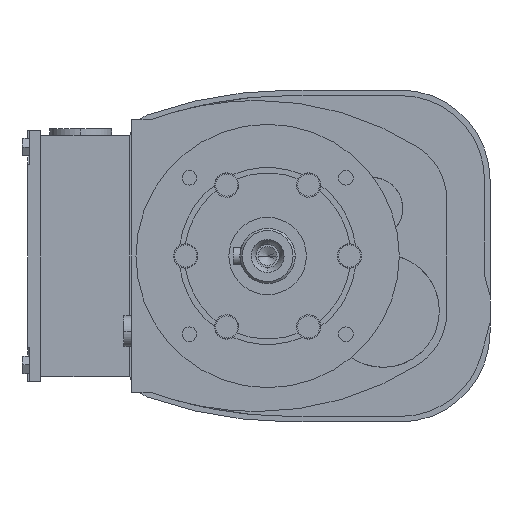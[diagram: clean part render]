
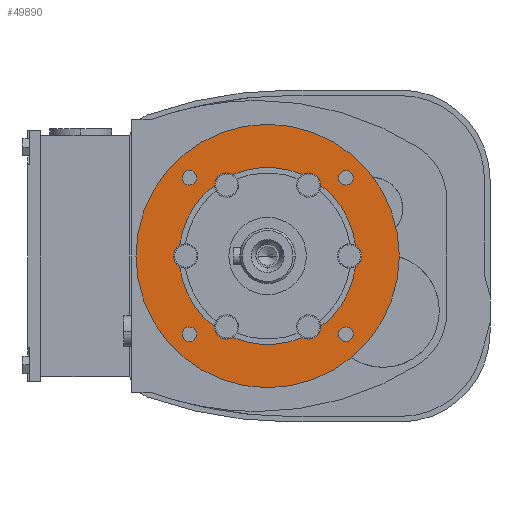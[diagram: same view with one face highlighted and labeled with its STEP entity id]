
A CAD part, left-side view. The second image highlights one B-rep face of the part: STEP entity #49890.
In plain terms, the highlighted planar face has unit normal (-1, 0, 0).
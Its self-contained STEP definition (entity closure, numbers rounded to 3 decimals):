
#44760=CARTESIAN_POINT('',(-70.,44.555,-42.145));
#44770=VERTEX_POINT('',#44760);
#44800=CARTESIAN_POINT('',(-70.,47.855,-42.145));
#44810=DIRECTION('',(-1.,0.,0.));
#44820=DIRECTION('',(0.,-1.,0.));
#44830=AXIS2_PLACEMENT_3D('',#44800,#44810,#44820);
#44840=CIRCLE('',#44830,3.3);
#44850=CARTESIAN_POINT('',(-70.,51.155,-42.145));
#44860=VERTEX_POINT('',#44850);
#44870=EDGE_CURVE('',#44860,#44770,#44840,.T.);
#45180=CARTESIAN_POINT('',(-70.,72.,-77.5));
#45190=VERTEX_POINT('',#45180);
#45350=CARTESIAN_POINT('',(-70.,-47.,-77.5));
#45360=VERTEX_POINT('',#45350);
#45390=CARTESIAN_POINT('',(-70.,12.5,-77.5));
#45400=DIRECTION('',(-1.,0.,0.));
#45410=DIRECTION('',(0.,1.,0.));
#45420=AXIS2_PLACEMENT_3D('',#45390,#45400,#45410);
#45430=CIRCLE('',#45420,59.5);
#45440=EDGE_CURVE('',#45360,#45190,#45430,.T.);
#46020=CARTESIAN_POINT('',(-70.,-19.555,-112.855));
#46030=VERTEX_POINT('',#46020);
#46060=CARTESIAN_POINT('',(-70.,-22.855,-112.855));
#46070=DIRECTION('',(-1.,0.,0.));
#46080=DIRECTION('',(0.,1.,0.));
#46090=AXIS2_PLACEMENT_3D('',#46060,#46070,#46080);
#46100=CIRCLE('',#46090,3.3);
#46110=CARTESIAN_POINT('',(-70.,-26.155,-112.855));
#46120=VERTEX_POINT('',#46110);
#46130=EDGE_CURVE('',#46120,#46030,#46100,.T.);
#47430=CARTESIAN_POINT('',(-70.,12.5,-77.5));
#47440=DIRECTION('',(1.,0.,0.));
#47450=DIRECTION('',(0.,-1.,0.));
#47460=AXIS2_PLACEMENT_3D('',#47430,#47440,#47450);
#47470=CIRCLE('',#47460,40.);
#47480=CARTESIAN_POINT('',(-70.,-27.213,-82.284));
#47490=VERTEX_POINT('',#47480);
#47500=CARTESIAN_POINT('',(-70.,-11.5,-109.5));
#47510=VERTEX_POINT('',#47500);
#47520=EDGE_CURVE('',#47490,#47510,#47470,.T.);
#48160=CARTESIAN_POINT('',(-70.,-22.855,-45.445));
#48170=VERTEX_POINT('',#48160);
#48200=CARTESIAN_POINT('',(-70.,-22.855,-42.145));
#48210=DIRECTION('',(-1.,0.,0.));
#48220=DIRECTION('',(0.,0.,-1.));
#48230=AXIS2_PLACEMENT_3D('',#48200,#48210,#48220);
#48240=CIRCLE('',#48230,3.3);
#48250=CARTESIAN_POINT('',(-70.,-22.855,-38.845));
#48260=VERTEX_POINT('',#48250);
#48270=EDGE_CURVE('',#48260,#48170,#48240,.T.);
#48500=CARTESIAN_POINT('',(-70.,-0.763,-23.24));
#48510=DIRECTION('',(-1.,0.,0.));
#48520=DIRECTION('',(0.,-1.,0.));
#48530=AXIS2_PLACEMENT_3D('',#48500,#48510,#48520);
#48540=PLANE('',#48530);
#48550=EDGE_CURVE('',#44770,#44860,#44840,.T.);
#48560=ORIENTED_EDGE('',*,*,#48550,.F.);
#48570=ORIENTED_EDGE('',*,*,#44870,.F.);
#48580=EDGE_LOOP('',(#48570,#48560));
#48590=FACE_BOUND('',#48580,.T.);
#48600=CARTESIAN_POINT('',(-70.,-6.,-45.457));
#48610=DIRECTION('',(-1.,0.,0.));
#48620=DIRECTION('',(0.,0.5,-0.866));
#48630=AXIS2_PLACEMENT_3D('',#48600,#48610,#48620);
#48640=CIRCLE('',#48630,5.5);
#48650=CARTESIAN_POINT('',(-70.,-11.5,-45.5));
#48660=VERTEX_POINT('',#48650);
#48670=CARTESIAN_POINT('',(-70.,-8.75,-40.694));
#48680=VERTEX_POINT('',#48670);
#48690=EDGE_CURVE('',#48660,#48680,#48640,.T.);
#48700=ORIENTED_EDGE('',*,*,#48690,.F.);
#48710=CARTESIAN_POINT('',(-70.,-3.213,-40.715));
#48720=VERTEX_POINT('',#48710);
#48730=EDGE_CURVE('',#48680,#48720,#48640,.T.);
#48740=ORIENTED_EDGE('',*,*,#48730,.F.);
#48750=CARTESIAN_POINT('',(-70.,28.213,-40.715));
#48760=VERTEX_POINT('',#48750);
#48770=EDGE_CURVE('',#48760,#48720,#47470,.T.);
#48780=ORIENTED_EDGE('',*,*,#48770,.T.);
#48790=CARTESIAN_POINT('',(-70.,31.,-45.457));
#48800=DIRECTION('',(-1.,0.,0.));
#48810=DIRECTION('',(0.,-0.5,-0.866));
#48820=AXIS2_PLACEMENT_3D('',#48790,#48800,#48810);
#48830=CIRCLE('',#48820,5.5);
#48840=CARTESIAN_POINT('',(-70.,33.75,-40.694));
#48850=VERTEX_POINT('',#48840);
#48860=EDGE_CURVE('',#48760,#48850,#48830,.T.);
#48870=ORIENTED_EDGE('',*,*,#48860,.F.);
#48880=CARTESIAN_POINT('',(-70.,36.5,-45.5));
#48890=VERTEX_POINT('',#48880);
#48900=EDGE_CURVE('',#48850,#48890,#48830,.T.);
#48910=ORIENTED_EDGE('',*,*,#48900,.F.);
#48920=CARTESIAN_POINT('',(-70.,52.213,-72.716));
#48930=VERTEX_POINT('',#48920);
#48940=EDGE_CURVE('',#48930,#48890,#47470,.T.);
#48950=ORIENTED_EDGE('',*,*,#48940,.T.);
#48960=CARTESIAN_POINT('',(-70.,49.5,-77.5));
#48970=DIRECTION('',(-1.,0.,0.));
#48980=DIRECTION('',(0.,-1.,0.));
#48990=AXIS2_PLACEMENT_3D('',#48960,#48970,#48980);
#49000=CIRCLE('',#48990,5.5);
#49010=CARTESIAN_POINT('',(-70.,55.,-77.5));
#49020=VERTEX_POINT('',#49010);
#49030=EDGE_CURVE('',#48930,#49020,#49000,.T.);
#49040=ORIENTED_EDGE('',*,*,#49030,.F.);
#49050=CARTESIAN_POINT('',(-70.,52.213,-82.284));
#49060=VERTEX_POINT('',#49050);
#49070=EDGE_CURVE('',#49020,#49060,#49000,.T.);
#49080=ORIENTED_EDGE('',*,*,#49070,.F.);
#49090=CARTESIAN_POINT('',(-70.,36.5,-109.5));
#49100=VERTEX_POINT('',#49090);
#49110=EDGE_CURVE('',#49100,#49060,#47470,.T.);
#49120=ORIENTED_EDGE('',*,*,#49110,.T.);
#49130=CARTESIAN_POINT('',(-70.,31.,-109.543));
#49140=DIRECTION('',(-1.,0.,0.));
#49150=DIRECTION('',(0.,-0.5,0.866));
#49160=AXIS2_PLACEMENT_3D('',#49130,#49140,#49150);
#49170=CIRCLE('',#49160,5.5);
#49180=CARTESIAN_POINT('',(-70.,33.75,-114.306));
#49190=VERTEX_POINT('',#49180);
#49200=EDGE_CURVE('',#49100,#49190,#49170,.T.);
#49210=ORIENTED_EDGE('',*,*,#49200,.F.);
#49220=CARTESIAN_POINT('',(-70.,28.213,-114.285));
#49230=VERTEX_POINT('',#49220);
#49240=EDGE_CURVE('',#49190,#49230,#49170,.T.);
#49250=ORIENTED_EDGE('',*,*,#49240,.F.);
#49260=CARTESIAN_POINT('',(-70.,-3.213,-114.285));
#49270=VERTEX_POINT('',#49260);
#49280=EDGE_CURVE('',#49270,#49230,#47470,.T.);
#49290=ORIENTED_EDGE('',*,*,#49280,.T.);
#49300=CARTESIAN_POINT('',(-70.,-6.,-109.543));
#49310=DIRECTION('',(-1.,0.,0.));
#49320=DIRECTION('',(0.,0.5,0.866));
#49330=AXIS2_PLACEMENT_3D('',#49300,#49310,#49320);
#49340=CIRCLE('',#49330,5.5);
#49350=CARTESIAN_POINT('',(-70.,-8.75,-114.306));
#49360=VERTEX_POINT('',#49350);
#49370=EDGE_CURVE('',#49270,#49360,#49340,.T.);
#49380=ORIENTED_EDGE('',*,*,#49370,.F.);
#49390=EDGE_CURVE('',#49360,#47510,#49340,.T.);
#49400=ORIENTED_EDGE('',*,*,#49390,.F.);
#49410=ORIENTED_EDGE('',*,*,#47520,.T.);
#49420=CARTESIAN_POINT('',(-70.,-24.5,-77.5));
#49430=DIRECTION('',(-1.,0.,0.));
#49440=DIRECTION('',(0.,1.,0.));
#49450=AXIS2_PLACEMENT_3D('',#49420,#49430,#49440);
#49460=CIRCLE('',#49450,5.5);
#49470=CARTESIAN_POINT('',(-70.,-30.,-77.5));
#49480=VERTEX_POINT('',#49470);
#49490=EDGE_CURVE('',#47490,#49480,#49460,.T.);
#49500=ORIENTED_EDGE('',*,*,#49490,.F.);
#49510=CARTESIAN_POINT('',(-70.,-27.213,-72.716));
#49520=VERTEX_POINT('',#49510);
#49530=EDGE_CURVE('',#49480,#49520,#49460,.T.);
#49540=ORIENTED_EDGE('',*,*,#49530,.F.);
#49550=EDGE_CURVE('',#48660,#49520,#47470,.T.);
#49560=ORIENTED_EDGE('',*,*,#49550,.T.);
#49570=EDGE_LOOP('',(#49560,#49540,#49500,#49410,#49400,#49380,#49290,#49250,#49210,#49120,#49080,#49040,#48950,#48910,#48870,#48780,#48740,#48700));
#49580=FACE_BOUND('',#49570,.T.);
#49590=EDGE_CURVE('',#48170,#48260,#48240,.T.);
#49600=ORIENTED_EDGE('',*,*,#49590,.F.);
#49610=ORIENTED_EDGE('',*,*,#48270,.F.);
#49620=EDGE_LOOP('',(#49610,#49600));
#49630=FACE_BOUND('',#49620,.T.);
#49640=EDGE_CURVE('',#46030,#46120,#46100,.T.);
#49650=ORIENTED_EDGE('',*,*,#49640,.F.);
#49660=ORIENTED_EDGE('',*,*,#46130,.F.);
#49670=EDGE_LOOP('',(#49660,#49650));
#49680=FACE_BOUND('',#49670,.T.);
#49690=CARTESIAN_POINT('',(-70.,47.855,-112.855));
#49700=DIRECTION('',(-1.,0.,0.));
#49710=DIRECTION('',(0.,0.,1.));
#49720=AXIS2_PLACEMENT_3D('',#49690,#49700,#49710);
#49730=CIRCLE('',#49720,3.3);
#49740=CARTESIAN_POINT('',(-70.,47.855,-109.555));
#49750=VERTEX_POINT('',#49740);
#49760=CARTESIAN_POINT('',(-70.,47.855,-116.155));
#49770=VERTEX_POINT('',#49760);
#49780=EDGE_CURVE('',#49750,#49770,#49730,.T.);
#49790=ORIENTED_EDGE('',*,*,#49780,.F.);
#49800=EDGE_CURVE('',#49770,#49750,#49730,.T.);
#49810=ORIENTED_EDGE('',*,*,#49800,.F.);
#49820=EDGE_LOOP('',(#49810,#49790));
#49830=FACE_BOUND('',#49820,.T.);
#49840=EDGE_CURVE('',#45190,#45360,#45430,.T.);
#49850=ORIENTED_EDGE('',*,*,#49840,.T.);
#49860=ORIENTED_EDGE('',*,*,#45440,.T.);
#49870=EDGE_LOOP('',(#49860,#49850));
#49880=FACE_OUTER_BOUND('',#49870,.T.);
#49890=ADVANCED_FACE('',(#48590,#49580,#49630,#49680,#49830,#49880),#48540,.T.);
